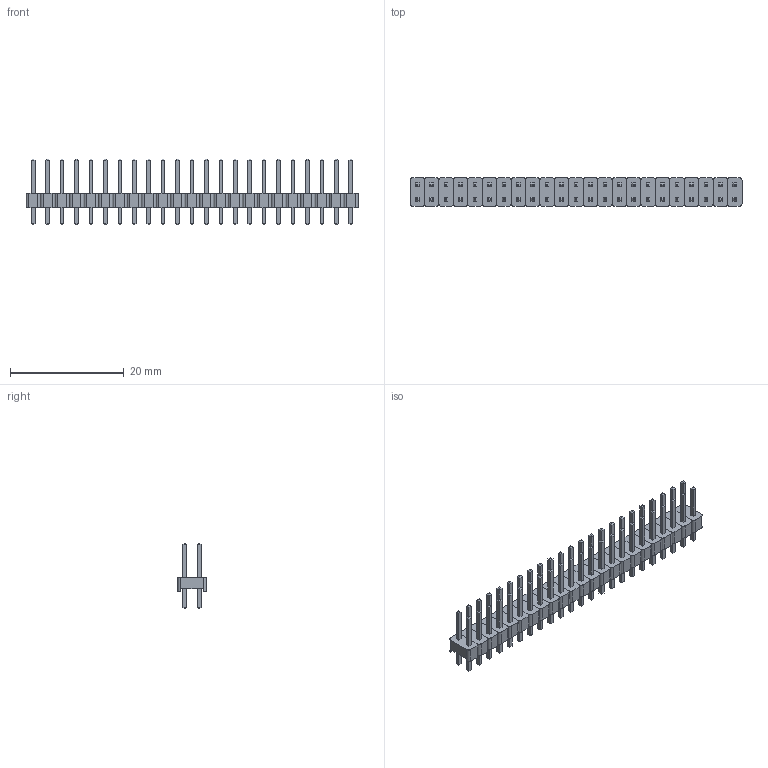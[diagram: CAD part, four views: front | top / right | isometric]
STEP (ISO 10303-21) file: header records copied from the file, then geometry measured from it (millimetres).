
FILE_DESCRIPTION(('FreeCAD Model'),'2;1');
FILE_NAME('Open CASCADE Shape Model','2022-04-06T16:01:57',( 'Engenharia Metaltex'),('Metaltex'), 'Open CASCADE STEP processor 7.5','FreeCAD','Unknown');
FILE_SCHEMA(('AUTOMOTIVE_DESIGN { 1 0 10303 214 1 1 1 1 }'));
Length unit declared in the file: millimetre
Products named in the file (93): BPDC; 23; Base022; Pino045; Pino046; 1; Base; Pino1; Pino2; 2; Base001; Pino003; Pino004; 3; Base002; Pino006; Pino005; 4; Base003; Pino008; Pino007; 5; Base004; Pino009; Pino010; 6; Base005; Pino012; Pino011; 7; Base006; Pino013; Pino014; 8; Base007; Pino015; Pino016; 9; Base008; Pino017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
Assembly tree (92 placements, depth 3):
  BPDC
    23
      Base022
      Pino045
      Pino046
    1
      Base
      Pino1
      Pino2
    2
      Base001
      Pino003
      Pino004
    3
      Base002
      Pino006
      Pino005
    4
      Base003
      Pino008
      Pino007
    5
      Base004
      Pino009
      Pino010
    6
      Base005
      Pino012
      Pino011
    7
      Base006
      Pino013
      Pino014
    8
      Base007
      Pino015
      Pino016
    9
      Base008
      Pino017
      Pino018
    10
      Base009
      Pino019
      Pino020
    11
      Base010
      Pino021
      Pino022
    12
      Base011
      Pino023
      Pino024
    13
      Base012
      Pino025
      Pino026
    14
      Base013
      Pino027
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Bounding box: 58.42 x 5.08 x 11.54 mm (x, y, z)
Volume: 803.2 mm3; surface area: 2958.5 mm2
Topology: 69 solids, 69 shells, 1150 faces, 2668 edges, 1656 vertices
Faces by surface type: plane 1058, cylinder 92
Entity records: 69019 total; most frequent: CARTESIAN_POINT 11455, DIRECTION 10582, LINE 7636, VECTOR 7636, ORIENTED_EDGE 5336, PCURVE 5336, DEFINITIONAL_REPRESENTATION 5336, EDGE_CURVE 2668
